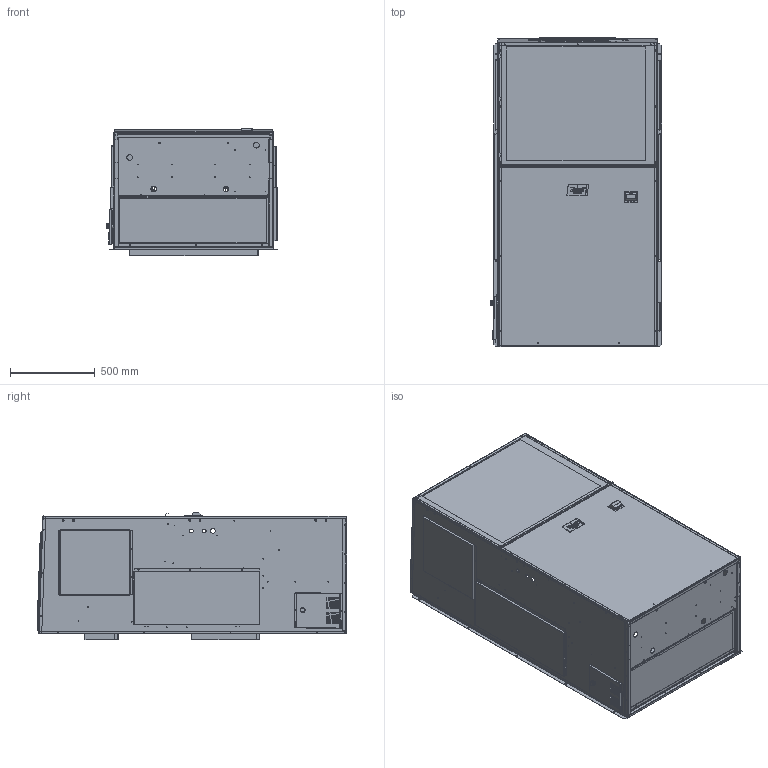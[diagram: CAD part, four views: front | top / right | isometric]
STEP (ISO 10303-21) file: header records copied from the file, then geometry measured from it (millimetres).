
FILE_DESCRIPTION (( 'STEP AP214' ), '1' );
FILE_NAME ('STEP_2500.STEP', '2020-01-21T14:17:29', ( '' ), ( '' ), 'SwSTEP 2.0', 'SolidWorks 2019', '' );
FILE_SCHEMA (( 'AUTOMOTIVE_DESIGN' ));
Length unit declared in the file: inch
Products named in the file (20): BIM118-120.STEP; LIGHT.step.STEP; BIM126-545.STEP; COVER.step.STEP; BIM8615-092, boot.STEP; BIM142-212.STEP; BIM106-373.STEP; BIM100-1015.STEP; STEP_2500; BIM142-215.STEP; BIM142-218.STEP; BIM7051-094.STEP; BIM118-121.STEP; BIM142-217.STEP; BIM110-282.STEP; BIM132-293.STEP; BIM108-397.STEP; BIM110-268.STEP; BIM5252-033.STEP; BIM100-1016.STEP
Assembly tree (22 placements, depth 2):
  STEP_2500
    BIM108-397.STEP
    BIM8615-092, boot.STEP
    BIM132-293.STEP
    BIM100-1015.STEP
    BIM118-121.STEP
    BIM126-545.STEP
    BIM110-282.STEP  x2
    BIM100-1016.STEP
    BIM142-218.STEP
    BIM110-268.STEP  x2
    BIM142-215.STEP
    BIM118-120.STEP
    BIM106-373.STEP
    BIM142-217.STEP  x2
    BIM142-212.STEP
    BIM7051-094.STEP
    BIM5252-033.STEP
    COVER.step.STEP
    LIGHT.step.STEP
Bounding box: 1010.67 x 1826.11 x 753.01 mm (x, y, z)
Volume: 8430693.6 mm3; surface area: 16260551.9 mm2
Topology: 29 solids, 29 shells, 2516 faces, 6497 edges, 4055 vertices
Faces by surface type: plane 1159, cylinder 1028, bspline 169, torus 93, sphere 52, cone 15
Entity records: 108827 total; most frequent: CARTESIAN_POINT 45604, DIRECTION 12315, ORIENTED_EDGE 12150, EDGE_CURVE 6075, AXIS2_PLACEMENT_3D 4496, VERTEX_POINT 3835, VECTOR 3323, LINE 3323
